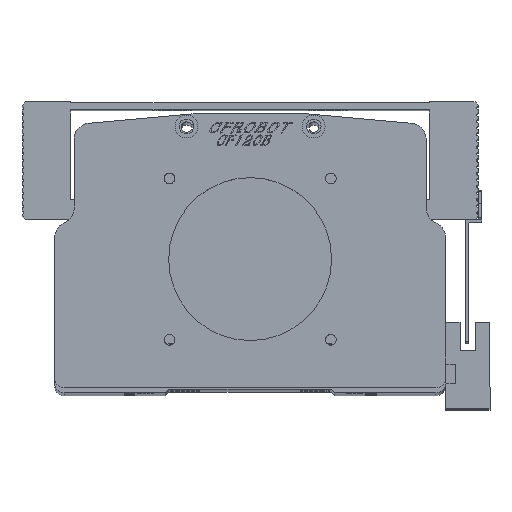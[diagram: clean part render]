
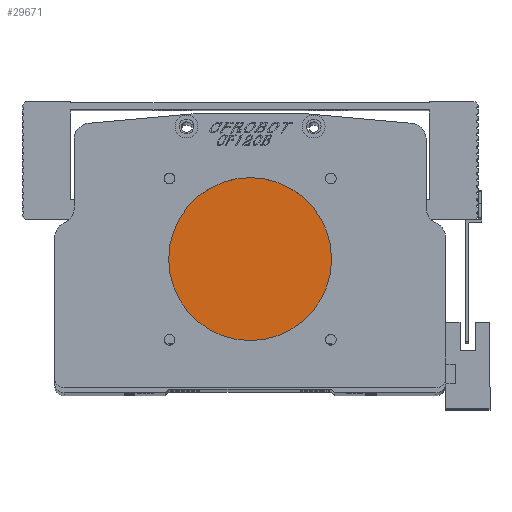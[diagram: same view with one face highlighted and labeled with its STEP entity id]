
A CAD part, top view. The second image highlights one B-rep face of the part: STEP entity #29671.
In plain terms, the highlighted planar face has unit normal (0, 0, 1).
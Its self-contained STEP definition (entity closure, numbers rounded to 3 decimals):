
#3930 = AXIS2_PLACEMENT_3D ( 'NONE', #24923, #104933, #36422 ) ;
#13056 = CARTESIAN_POINT ( 'NONE',  ( 0., 0., 100. ) ) ;
#18427 = DIRECTION ( 'NONE',  ( 0., 0., 1. ) ) ;
#24923 = CARTESIAN_POINT ( 'NONE',  ( 39., 26.5, 100. ) ) ;
#29671 = ADVANCED_FACE ( 'NONE', ( #61786 ), #59073, .T. ) ;
#30213 = CARTESIAN_POINT ( 'NONE',  ( 64., 26.5, 100. ) ) ;
#36422 = DIRECTION ( 'NONE',  ( 1., 0., 0. ) ) ;
#38597 = AXIS2_PLACEMENT_3D ( 'NONE', #13056, #139071, #70623 ) ;
#59073 = PLANE ( 'NONE',  #38597 ) ;
#61786 = FACE_OUTER_BOUND ( 'NONE', #135874, .T. ) ;
#65815 = EDGE_CURVE ( 'NONE', #81603, #101441, #79721, .T. ) ;
#70623 = DIRECTION ( 'NONE',  ( 1., 0., 0. ) ) ;
#72887 = AXIS2_PLACEMENT_3D ( 'NONE', #87059, #18427, #98496 ) ;
#74431 = CARTESIAN_POINT ( 'NONE',  ( 14., 26.5, 100. ) ) ;
#79721 = CIRCLE ( 'NONE', #72887, 25. ) ;
#81603 = VERTEX_POINT ( 'NONE', #30213 ) ;
#83856 = CIRCLE ( 'NONE', #3930, 25. ) ;
#84102 = ORIENTED_EDGE ( 'NONE', *, *, #136643, .T. ) ;
#87059 = CARTESIAN_POINT ( 'NONE',  ( 39., 26.5, 100. ) ) ;
#98496 = DIRECTION ( 'NONE',  ( 1., 0., 0. ) ) ;
#101441 = VERTEX_POINT ( 'NONE', #74431 ) ;
#104933 = DIRECTION ( 'NONE',  ( 0., 0., 1. ) ) ;
#122122 = ORIENTED_EDGE ( 'NONE', *, *, #65815, .T. ) ;
#135874 = EDGE_LOOP ( 'NONE', ( #122122, #84102 ) ) ;
#136643 = EDGE_CURVE ( 'NONE', #101441, #81603, #83856, .T. ) ;
#139071 = DIRECTION ( 'NONE',  ( 0., 0., 1. ) ) ;
